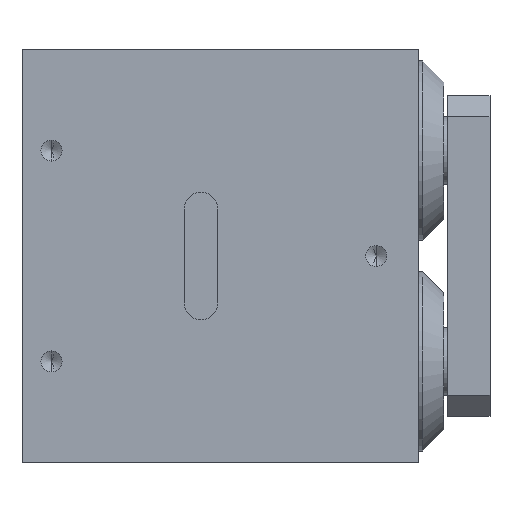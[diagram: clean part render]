
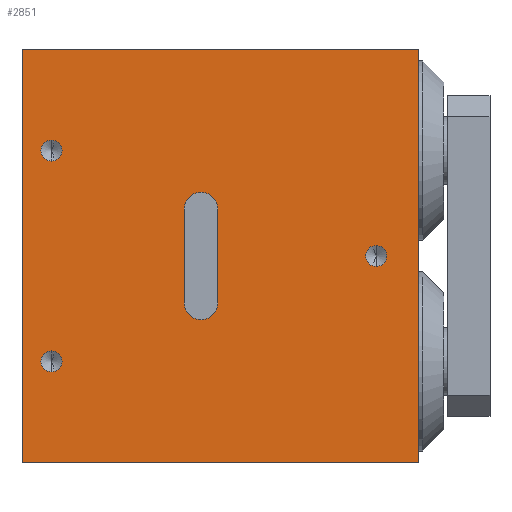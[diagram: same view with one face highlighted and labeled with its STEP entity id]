
A CAD part, front view. The second image highlights one B-rep face of the part: STEP entity #2851.
In plain terms, the highlighted planar face has unit normal (0, -1, 0).
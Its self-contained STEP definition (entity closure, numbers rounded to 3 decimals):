
#210 = DIRECTION ( 'NONE',  ( 0., 0., -1. ) ) ;
#211 = DIRECTION ( 'NONE',  ( 0., -1., 0. ) ) ;
#212 = CARTESIAN_POINT ( 'NONE',  ( 84., 0., 49. ) ) ;
#213 = AXIS2_PLACEMENT_3D ( 'NONE', #212, #211, #210 ) ;
#214 = CIRCLE ( 'NONE', #213, 2.5 ) ;
#282 = CARTESIAN_POINT ( 'NONE',  ( 84., 0., 46.5 ) ) ;
#330 = CARTESIAN_POINT ( 'NONE',  ( 7., 0., 26.5 ) ) ;
#395 = CARTESIAN_POINT ( 'NONE',  ( 84., 0., 51.5 ) ) ;
#401 = CARTESIAN_POINT ( 'NONE',  ( 46.45, 0., 37.9 ) ) ;
#407 = CARTESIAN_POINT ( 'NONE',  ( 42.45, 0., 33.9 ) ) ;
#414 = CARTESIAN_POINT ( 'NONE',  ( 7., 0., 21.5 ) ) ;
#458 = DIRECTION ( 'NONE',  ( 0., 0., -1. ) ) ;
#459 = DIRECTION ( 'NONE',  ( 0., -1., 0. ) ) ;
#460 = CARTESIAN_POINT ( 'NONE',  ( 7., 0., 74. ) ) ;
#461 = AXIS2_PLACEMENT_3D ( 'NONE', #460, #459, #458 ) ;
#462 = CIRCLE ( 'NONE', #461, 2.5 ) ;
#499 = CARTESIAN_POINT ( 'NONE',  ( 7., 0., 76.5 ) ) ;
#500 = CARTESIAN_POINT ( 'NONE',  ( 7., 0., 71.5 ) ) ;
#501 = DIRECTION ( 'NONE',  ( 0., 0., -1. ) ) ;
#502 = DIRECTION ( 'NONE',  ( 0., -1., 0. ) ) ;
#503 = CARTESIAN_POINT ( 'NONE',  ( 7., 0., 24. ) ) ;
#504 = AXIS2_PLACEMENT_3D ( 'NONE', #503, #502, #501 ) ;
#505 = CIRCLE ( 'NONE', #504, 2.5 ) ;
#535 = DIRECTION ( 'NONE',  ( 0., 0., 1. ) ) ;
#536 = DIRECTION ( 'NONE',  ( 0., -1., 0. ) ) ;
#537 = CARTESIAN_POINT ( 'NONE',  ( 42.45, 0., 37.9 ) ) ;
#538 = AXIS2_PLACEMENT_3D ( 'NONE', #537, #536, #535 ) ;
#539 = CIRCLE ( 'NONE', #538, 4. ) ;
#563 = CARTESIAN_POINT ( 'NONE',  ( 0., 0., 98. ) ) ;
#684 = DIRECTION ( 'NONE',  ( 0., 0., 1. ) ) ;
#685 = VECTOR ( 'NONE', #684, 1000. ) ;
#686 = CARTESIAN_POINT ( 'NONE',  ( 46.45, 0., 60.1 ) ) ;
#687 = LINE ( 'NONE', #686, #685 ) ;
#689 = CARTESIAN_POINT ( 'NONE',  ( 46.45, 0., 60.1 ) ) ;
#690 = DIRECTION ( 'NONE',  ( 0., 0., -1. ) ) ;
#691 = DIRECTION ( 'NONE',  ( 0., -1., 0. ) ) ;
#692 = CARTESIAN_POINT ( 'NONE',  ( 42.45, 0., 60.1 ) ) ;
#693 = AXIS2_PLACEMENT_3D ( 'NONE', #692, #691, #690 ) ;
#694 = CIRCLE ( 'NONE', #693, 4. ) ;
#695 = CARTESIAN_POINT ( 'NONE',  ( 38.45, 0., 37.9 ) ) ;
#696 = CARTESIAN_POINT ( 'NONE',  ( 38.45, 0., 60.1 ) ) ;
#697 = DIRECTION ( 'NONE',  ( 0., 0., -1. ) ) ;
#698 = VECTOR ( 'NONE', #697, 1000. ) ;
#699 = CARTESIAN_POINT ( 'NONE',  ( 38.45, 0., 60.1 ) ) ;
#700 = LINE ( 'NONE', #699, #698 ) ;
#715 = AXIS2_PLACEMENT_3D ( 'NONE', #777, #776, #775 ) ;
#716 = PLANE ( 'NONE',  #715 ) ;
#717 = FACE_OUTER_BOUND ( 'NONE', #2860, .T. ) ;
#718 = FACE_BOUND ( 'NONE', #2927, .T. ) ;
#719 = FACE_BOUND ( 'NONE', #2855, .T. ) ;
#720 = FACE_BOUND ( 'NONE', #2744, .T. ) ;
#721 = FACE_BOUND ( 'NONE', #2823, .T. ) ;
#722 = DIRECTION ( 'NONE',  ( 0., 0., -1. ) ) ;
#723 = VECTOR ( 'NONE', #722, 1000. ) ;
#724 = CARTESIAN_POINT ( 'NONE',  ( 0., 0., 98. ) ) ;
#725 = LINE ( 'NONE', #724, #723 ) ;
#726 = CARTESIAN_POINT ( 'NONE',  ( 0., 0., 0. ) ) ;
#731 = CARTESIAN_POINT ( 'NONE',  ( 94., 0., 0. ) ) ;
#732 = CARTESIAN_POINT ( 'NONE',  ( 94., 0., 98. ) ) ;
#752 = DIRECTION ( 'NONE',  ( 0., 0., 1. ) ) ;
#753 = DIRECTION ( 'NONE',  ( 0., -1., 0. ) ) ;
#754 = CARTESIAN_POINT ( 'NONE',  ( 42.45, 0., 37.9 ) ) ;
#755 = AXIS2_PLACEMENT_3D ( 'NONE', #754, #753, #752 ) ;
#756 = CIRCLE ( 'NONE', #755, 4. ) ;
#757 = DIRECTION ( 'NONE',  ( 0., 0., -1. ) ) ;
#758 = DIRECTION ( 'NONE',  ( 0., -1., 0. ) ) ;
#759 = CARTESIAN_POINT ( 'NONE',  ( 84., 0., 49. ) ) ;
#760 = AXIS2_PLACEMENT_3D ( 'NONE', #759, #758, #757 ) ;
#761 = CIRCLE ( 'NONE', #760, 2.5 ) ;
#762 = DIRECTION ( 'NONE',  ( 1., 0., 0. ) ) ;
#763 = VECTOR ( 'NONE', #762, 1000. ) ;
#764 = CARTESIAN_POINT ( 'NONE',  ( 0., 0., 0. ) ) ;
#765 = LINE ( 'NONE', #764, #763 ) ;
#766 = DIRECTION ( 'NONE',  ( 0., 0., -1. ) ) ;
#767 = DIRECTION ( 'NONE',  ( 0., -1., 0. ) ) ;
#768 = CARTESIAN_POINT ( 'NONE',  ( 7., 0., 24. ) ) ;
#769 = AXIS2_PLACEMENT_3D ( 'NONE', #768, #767, #766 ) ;
#770 = CIRCLE ( 'NONE', #769, 2.5 ) ;
#771 = DIRECTION ( 'NONE',  ( 1., 0., 0. ) ) ;
#772 = VECTOR ( 'NONE', #771, 1000. ) ;
#773 = CARTESIAN_POINT ( 'NONE',  ( 0., 0., 98. ) ) ;
#774 = LINE ( 'NONE', #773, #772 ) ;
#775 = DIRECTION ( 'NONE',  ( 0., 0., 1. ) ) ;
#776 = DIRECTION ( 'NONE',  ( 0., 1., 0. ) ) ;
#777 = CARTESIAN_POINT ( 'NONE',  ( 0., 0., 98. ) ) ;
#817 = DIRECTION ( 'NONE',  ( 0., 0., -1. ) ) ;
#818 = VECTOR ( 'NONE', #817, 1000. ) ;
#819 = CARTESIAN_POINT ( 'NONE',  ( 94., 0., 98. ) ) ;
#820 = LINE ( 'NONE', #819, #818 ) ;
#1026 = DIRECTION ( 'NONE',  ( 0., 0., -1. ) ) ;
#1027 = DIRECTION ( 'NONE',  ( 0., -1., 0. ) ) ;
#1028 = CARTESIAN_POINT ( 'NONE',  ( 7., 0., 74. ) ) ;
#1029 = AXIS2_PLACEMENT_3D ( 'NONE', #1028, #1027, #1026 ) ;
#1030 = CIRCLE ( 'NONE', #1029, 2.5 ) ;
#2562 = EDGE_CURVE ( 'NONE', #2631, #2590, #214, .T. ) ;
#2590 = VERTEX_POINT ( 'NONE', #282 ) ;
#2597 = VERTEX_POINT ( 'NONE', #330 ) ;
#2631 = VERTEX_POINT ( 'NONE', #395 ) ;
#2656 = VERTEX_POINT ( 'NONE', #414 ) ;
#2662 = VERTEX_POINT ( 'NONE', #407 ) ;
#2666 = VERTEX_POINT ( 'NONE', #401 ) ;
#2705 = EDGE_CURVE ( 'NONE', #2717, #2716, #462, .T. ) ;
#2714 = EDGE_CURVE ( 'NONE', #2597, #2656, #505, .T. ) ;
#2716 = VERTEX_POINT ( 'NONE', #500 ) ;
#2717 = VERTEX_POINT ( 'NONE', #499 ) ;
#2730 = EDGE_CURVE ( 'NONE', #2662, #2666, #539, .T. ) ;
#2744 = EDGE_LOOP ( 'NONE', ( #2862, #2861 ) ) ;
#2751 = VERTEX_POINT ( 'NONE', #563 ) ;
#2762 = ORIENTED_EDGE ( 'NONE', *, *, #2864, .F. ) ;
#2823 = EDGE_LOOP ( 'NONE', ( #2824, #2828, #2832, #2834, #2762 ) ) ;
#2824 = ORIENTED_EDGE ( 'NONE', *, *, #2825, .F. ) ;
#2825 = EDGE_CURVE ( 'NONE', #2826, #2827, #700, .T. ) ;
#2826 = VERTEX_POINT ( 'NONE', #696 ) ;
#2827 = VERTEX_POINT ( 'NONE', #695 ) ;
#2828 = ORIENTED_EDGE ( 'NONE', *, *, #2829, .F. ) ;
#2829 = EDGE_CURVE ( 'NONE', #2830, #2826, #694, .T. ) ;
#2830 = VERTEX_POINT ( 'NONE', #689 ) ;
#2832 = ORIENTED_EDGE ( 'NONE', *, *, #2833, .F. ) ;
#2833 = EDGE_CURVE ( 'NONE', #2666, #2830, #687, .T. ) ;
#2834 = ORIENTED_EDGE ( 'NONE', *, *, #2730, .F. ) ;
#2844 = VERTEX_POINT ( 'NONE', #732 ) ;
#2845 = VERTEX_POINT ( 'NONE', #731 ) ;
#2848 = VERTEX_POINT ( 'NONE', #726 ) ;
#2850 = EDGE_CURVE ( 'NONE', #2751, #2848, #725, .T. ) ;
#2851 = ADVANCED_FACE ( 'NONE', ( #721, #720, #719, #718, #717 ), #716, .F. ) ;
#2852 = ORIENTED_EDGE ( 'NONE', *, *, #2853, .F. ) ;
#2853 = EDGE_CURVE ( 'NONE', #2751, #2844, #774, .T. ) ;
#2854 = EDGE_CURVE ( 'NONE', #2656, #2597, #770, .T. ) ;
#2855 = EDGE_LOOP ( 'NONE', ( #2856, #2924 ) ) ;
#2856 = ORIENTED_EDGE ( 'NONE', *, *, #2928, .F. ) ;
#2857 = ORIENTED_EDGE ( 'NONE', *, *, #2858, .T. ) ;
#2858 = EDGE_CURVE ( 'NONE', #2848, #2845, #765, .T. ) ;
#2859 = ORIENTED_EDGE ( 'NONE', *, *, #2714, .F. ) ;
#2860 = EDGE_LOOP ( 'NONE', ( #2857, #2923, #2852, #2922 ) ) ;
#2861 = ORIENTED_EDGE ( 'NONE', *, *, #2562, .F. ) ;
#2862 = ORIENTED_EDGE ( 'NONE', *, *, #2863, .F. ) ;
#2863 = EDGE_CURVE ( 'NONE', #2590, #2631, #761, .T. ) ;
#2864 = EDGE_CURVE ( 'NONE', #2827, #2662, #756, .T. ) ;
#2888 = EDGE_CURVE ( 'NONE', #2844, #2845, #820, .T. ) ;
#2922 = ORIENTED_EDGE ( 'NONE', *, *, #2850, .T. ) ;
#2923 = ORIENTED_EDGE ( 'NONE', *, *, #2888, .F. ) ;
#2924 = ORIENTED_EDGE ( 'NONE', *, *, #2705, .F. ) ;
#2925 = ORIENTED_EDGE ( 'NONE', *, *, #2854, .F. ) ;
#2927 = EDGE_LOOP ( 'NONE', ( #2925, #2859 ) ) ;
#2928 = EDGE_CURVE ( 'NONE', #2716, #2717, #1030, .T. ) ;
